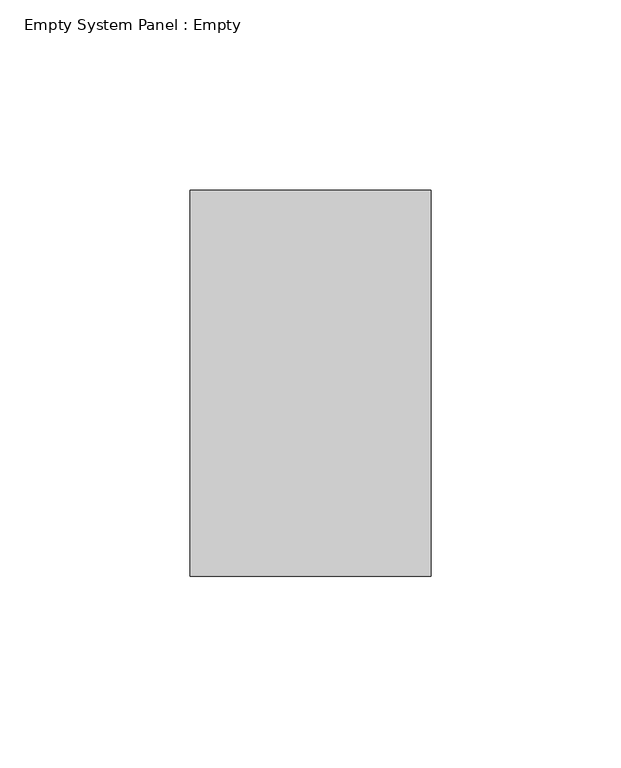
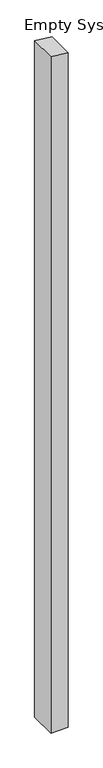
"""IFC4 building model written with IfcOpenShell, lengths in millimetres: plate geometry, Empty System Panel : Empty."""

from ifc_helpers import new_model, si_unit, frame, origin, place, context, project, spatial, polyline, outline, extrude, source, transform, mapped, element, save


def empty_system_panel_empty_a4a858b7(model_context):
    return source(origin(), model_context, "Body", "SweptSolid", [
        extrude(outline(polyline([(0.0, -31.75), (0.0, 31.75), (2596.4685649, 31.75), (2603.570924, -31.75), (0.0, -31.75)])), frame((0.0, -50.8, 0.0), z_axis=(0.0, 1.0, 0.0), x_axis=(0.0, 0.0, 1.0)), (0.0, 0.0, 1.0), 101.6),
    ])


if __name__ == "__main__":
    model = new_model("IFC4")
    model_context = context("Model", 3, world=origin())
    ifc_project = project(units=[si_unit("LENGTHUNIT", "METRE", prefix="MILLI")], contexts=[model_context])
    site = spatial("IfcSite", under=ifc_project)
    building = spatial("IfcBuilding", under=site)
    placement = place(None, origin())
    empty_system_panel_empty_shape = empty_system_panel_empty_a4a858b7(model_context)
    element("IfcPlate", 1, ObjectType="Empty System Panel : Empty", at=placement, inside=building, context=model_context, shape_type="MappedRepresentation", body=[
        mapped(empty_system_panel_empty_shape, transform((0.0, 0.0, 0.0), x_axis=(1.0, 0.0, 0.0), y_axis=(0.0, 1.0, 0.0), z_axis=(0.0, 0.0, 1.0))),
    ])
    save(model, "model.ifc")
